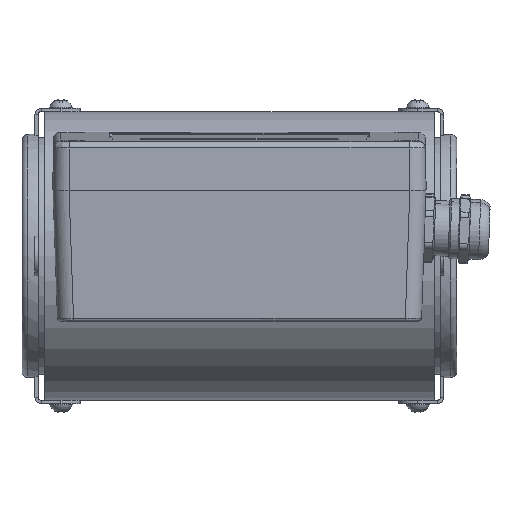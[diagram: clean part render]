
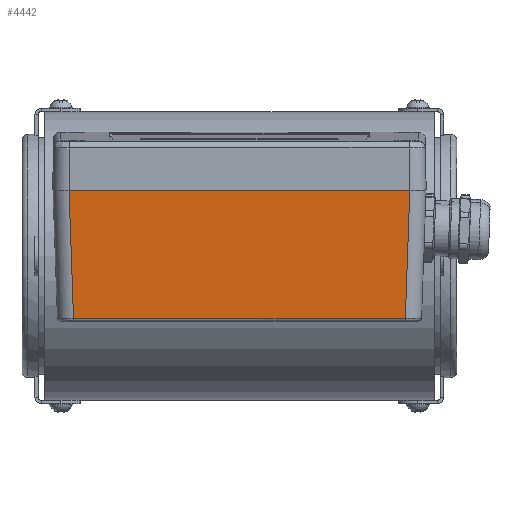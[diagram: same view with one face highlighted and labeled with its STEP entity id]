
A CAD part, top view. The second image highlights one B-rep face of the part: STEP entity #4442.
In plain terms, the highlighted planar face has unit normal (0, -0.07, 0.998).
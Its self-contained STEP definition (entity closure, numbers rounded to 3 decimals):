
#4442=ADVANCED_FACE('',(#11855),#11857,.T.);
#11855=FACE_BOUND('',#11856,.T.);
#11856=EDGE_LOOP('',(#24000,#24001,#24002,#24003,#24004,#24005));
#11857=PLANE('',#11858);
#11858=AXIS2_PLACEMENT_3D('',#11859,#11860,#11861);
#11859=CARTESIAN_POINT('',(-57.5,19.917,189.645));
#11860=DIRECTION('',(0.,-0.07,0.998));
#11861=DIRECTION('',(-1.,0.,0.));
#24000=ORIENTED_EDGE('',*,*,#27454,.F.);
#24001=ORIENTED_EDGE('',*,*,#27455,.T.);
#24002=ORIENTED_EDGE('',*,*,#27430,.F.);
#24003=ORIENTED_EDGE('',*,*,#27361,.F.);
#24004=ORIENTED_EDGE('',*,*,#27411,.F.);
#24005=ORIENTED_EDGE('',*,*,#27456,.T.);
#27361=EDGE_CURVE('',#30362,#30365,#30366,.T.);
#27411=EDGE_CURVE('',#30455,#30362,#30457,.T.);
#27430=EDGE_CURVE('',#30365,#30486,#30487,.T.);
#27454=EDGE_CURVE('',#30525,#30526,#30527,.F.);
#27455=EDGE_CURVE('',#30525,#30486,#30528,.T.);
#27456=EDGE_CURVE('',#30455,#30526,#30529,.T.);
#30362=VERTEX_POINT('',#38703);
#30365=VERTEX_POINT('',#38726);
#30366=LINE('',#38727,#38728);
#30455=VERTEX_POINT('',#38961);
#30457=LINE('',#38966,#38967);
#30486=VERTEX_POINT('',#39039);
#30487=LINE('',#39040,#39041);
#30525=VERTEX_POINT('',#39133);
#30526=VERTEX_POINT('',#39134);
#30527=LINE('',#39135,#39136);
#30528=LINE('',#39138,#39139);
#30529=LINE('',#39141,#39142);
#38703=CARTESIAN_POINT('',(51.122,-19.545,186.886));
#38726=CARTESIAN_POINT('',(-51.122,-19.545,186.886));
#38727=CARTESIAN_POINT('',(51.122,-19.545,186.886));
#38728=VECTOR('',#38729,1.);
#38729=DIRECTION('',(-1.,0.,0.));
#38961=CARTESIAN_POINT('',(52.503,19.917,189.645));
#38966=CARTESIAN_POINT('',(52.503,19.917,189.645));
#38967=VECTOR('',#38968,1.);
#38968=DIRECTION('',(-0.035,-0.997,-0.07));
#39039=CARTESIAN_POINT('',(-52.503,19.917,189.645));
#39040=CARTESIAN_POINT('',(-51.122,-19.545,186.886));
#39041=VECTOR('',#39042,1.);
#39042=DIRECTION('',(-0.035,0.997,0.07));
#39133=CARTESIAN_POINT('',(-52.501,19.917,189.645));
#39134=CARTESIAN_POINT('',(52.501,19.917,189.645));
#39135=CARTESIAN_POINT('',(52.501,19.917,189.645));
#39136=VECTOR('',#39137,1.);
#39137=DIRECTION('',(-1.,0.,0.));
#39138=CARTESIAN_POINT('',(-52.501,19.917,189.645));
#39139=VECTOR('',#39140,1.);
#39140=DIRECTION('',(-1.,0.,0.));
#39141=CARTESIAN_POINT('',(52.503,19.917,189.645));
#39142=VECTOR('',#39143,1.);
#39143=DIRECTION('',(-1.,0.,0.));
